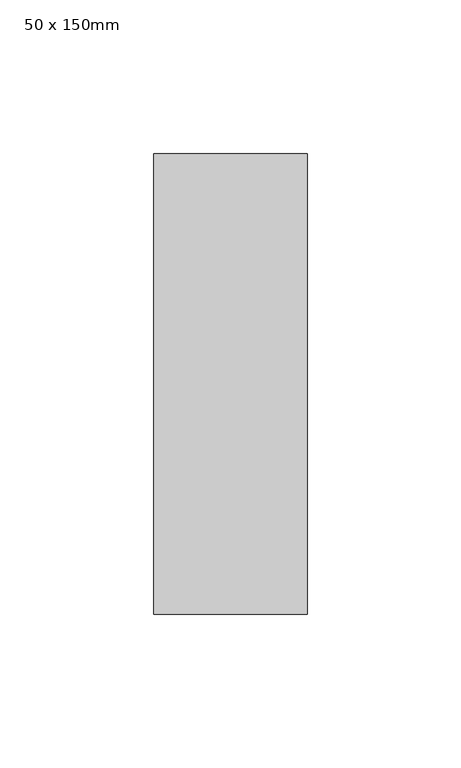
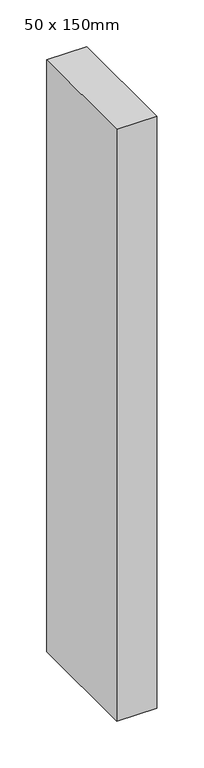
"""IFC4 building model written with IfcOpenShell, lengths in millimetres: member geometry, Прямоугольный импост : 50 x 150mm."""

from ifc_helpers import new_model, si_unit, frame, origin, place, context, project, spatial, polyline, outline, extrude, source, transform, mapped, element, save


def member_50_x_150mm_5dc04e1f(model_context):
    return source(origin(), model_context, "Body", "SweptSolid", [
        extrude(outline(polyline([(0.0, 75.0), (0.0, -75.0), (-50.0, -75.0), (-50.0, 75.0), (0.0, 75.0)])), frame((0.0, 0.0, -775.0), z_axis=(0.0, 0.0, 1.0), x_axis=(1.0, 0.0, 0.0)), (0.0, 0.0, 1.0), 775.0),
    ])


if __name__ == "__main__":
    model = new_model("IFC4")
    model_context = context("Model", 3, world=origin())
    ifc_project = project(units=[si_unit("LENGTHUNIT", "METRE", prefix="MILLI")], contexts=[model_context])
    site = spatial("IfcSite", under=ifc_project)
    building = spatial("IfcBuilding", under=site)
    placement = place(None, origin())
    member_50_x_150mm_shape = member_50_x_150mm_5dc04e1f(model_context)
    element("IfcMember", 1, ObjectType="Прямоугольный импост : 50 x 150mm", at=placement, inside=building, context=model_context, shape_type="MappedRepresentation", body=[
        mapped(member_50_x_150mm_shape, transform((0.0, 0.0, 0.0), x_axis=(1.0, 0.0, 0.0), y_axis=(0.0, 1.0, 0.0), z_axis=(0.0, 0.0, 1.0))),
    ])
    save(model, "model.ifc")
